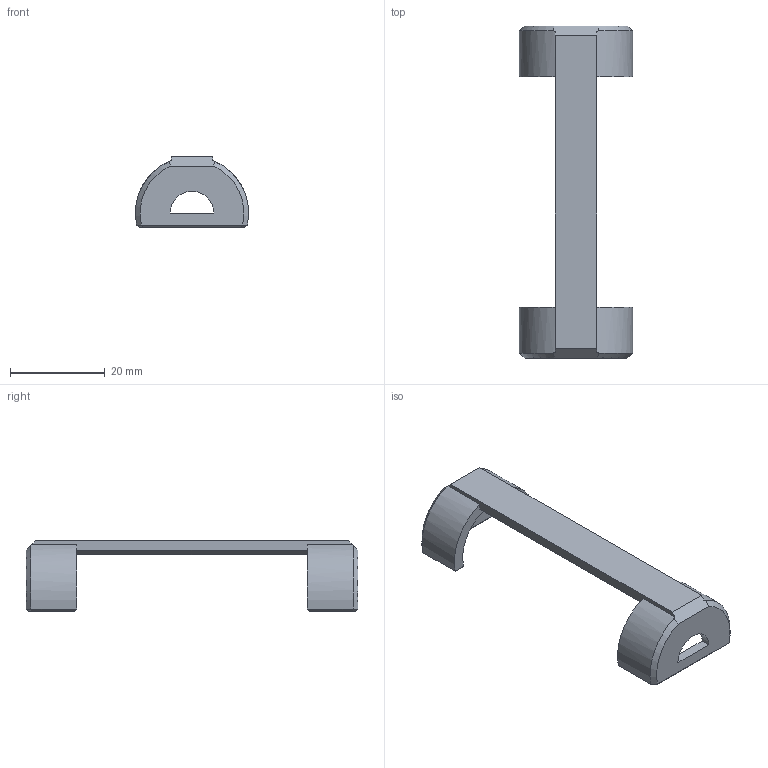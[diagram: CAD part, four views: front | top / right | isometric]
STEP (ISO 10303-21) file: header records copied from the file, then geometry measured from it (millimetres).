
FILE_DESCRIPTION(/* description */ (''),/* implementation_level */ '2;1');
FILE_NAME(/* name */ 'D:/Lorenzo/Desktop/18650 minimal holder.step',/* time_stamp */ '2022-02-08T10:34:35+01:00',/* author */ (''),/* organization */ (''),/* preprocessor_version */ 'ST-DEVELOPER v18.1',/* originating_system */ 'Autodesk Translation Framework v10.13.0.1454',/* authorisation */ '');
FILE_SCHEMA (('AUTOMOTIVE_DESIGN { 1 0 10303 214 3 1 1 }'));
Length unit declared in the file: millimetre
Products named in the file (1): 18650 minimal clip
Bounding box: 23.95 x 70.2 x 14.98 mm (x, y, z)
Volume: 3858.2 mm3; surface area: 3849.9 mm2
Topology: 1 solids, 1 shells, 54 faces, 156 edges, 104 vertices
Faces by surface type: plane 35, bspline 8, cylinder 7, cone 4
Entity records: 1959 total; most frequent: CARTESIAN_POINT 567, ORIENTED_EDGE 312, DIRECTION 248, EDGE_CURVE 156, VERTEX_POINT 104, AXIS2_PLACEMENT_3D 85, LINE 78, VECTOR 78
